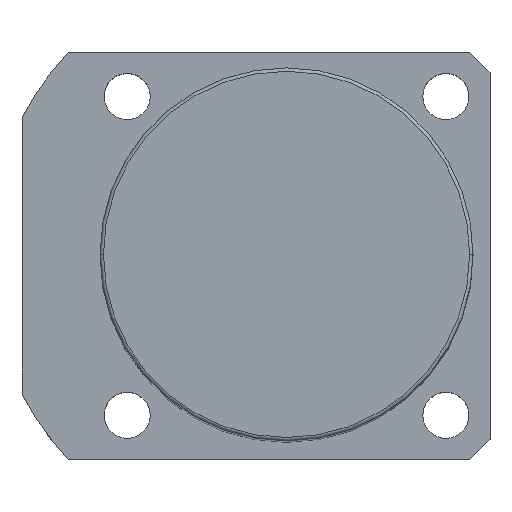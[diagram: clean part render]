
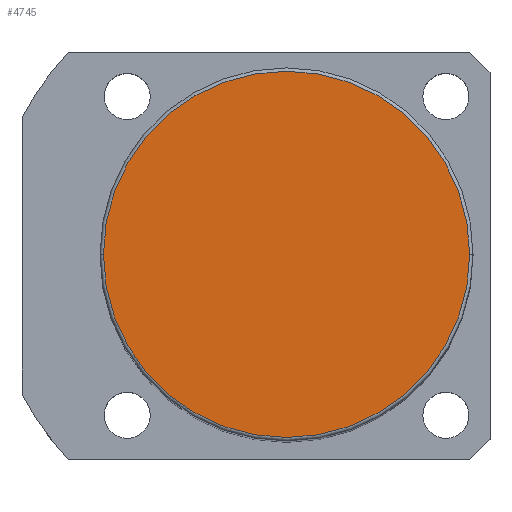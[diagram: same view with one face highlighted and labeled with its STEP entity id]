
A CAD part, top view. The second image highlights one B-rep face of the part: STEP entity #4745.
In plain terms, the highlighted planar face has unit normal (0, 0, 1).
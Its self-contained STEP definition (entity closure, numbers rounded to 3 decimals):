
#162 = CARTESIAN_POINT ( 'NONE',  ( 0., 0., 136. ) ) ;
#424 = VERTEX_POINT ( 'NONE', #3557 ) ;
#564 = DIRECTION ( 'NONE',  ( 1., 0., 0. ) ) ;
#874 = ORIENTED_EDGE ( 'NONE', *, *, #2935, .T. ) ;
#922 = CARTESIAN_POINT ( 'NONE',  ( 27., 0., 136. ) ) ;
#1017 = AXIS2_PLACEMENT_3D ( 'NONE', #3932, #1546, #4315 ) ;
#1413 = VERTEX_POINT ( 'NONE', #922 ) ;
#1416 = ORIENTED_EDGE ( 'NONE', *, *, #1702, .T. ) ;
#1546 = DIRECTION ( 'NONE',  ( 0., 0., 1. ) ) ;
#1702 = EDGE_CURVE ( 'NONE', #1413, #424, #4963, .T. ) ;
#2062 = DIRECTION ( 'NONE',  ( 0., 0., 1. ) ) ;
#2872 = PLANE ( 'NONE',  #4336 ) ;
#2935 = EDGE_CURVE ( 'NONE', #424, #1413, #3739, .T. ) ;
#2977 = DIRECTION ( 'NONE',  ( 0., 0., 1. ) ) ;
#3231 = EDGE_LOOP ( 'NONE', ( #1416, #874 ) ) ;
#3277 = CARTESIAN_POINT ( 'NONE',  ( 0., 0., 136. ) ) ;
#3557 = CARTESIAN_POINT ( 'NONE',  ( -27., 0., 136. ) ) ;
#3678 = AXIS2_PLACEMENT_3D ( 'NONE', #162, #2977, #564 ) ;
#3739 = CIRCLE ( 'NONE', #1017, 27. ) ;
#3932 = CARTESIAN_POINT ( 'NONE',  ( 0., 0., 136. ) ) ;
#4009 = FACE_OUTER_BOUND ( 'NONE', #3231, .T. ) ;
#4315 = DIRECTION ( 'NONE',  ( 1., 0., 0. ) ) ;
#4336 = AXIS2_PLACEMENT_3D ( 'NONE', #3277, #2062, #4819 ) ;
#4745 = ADVANCED_FACE ( 'NONE', ( #4009 ), #2872, .T. ) ;
#4819 = DIRECTION ( 'NONE',  ( 1., 0., 0. ) ) ;
#4963 = CIRCLE ( 'NONE', #3678, 27. ) ;
